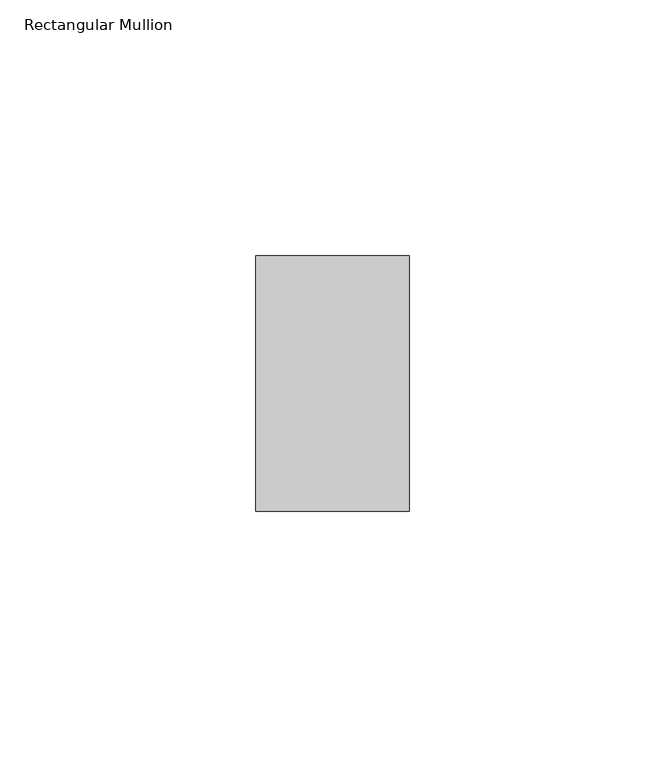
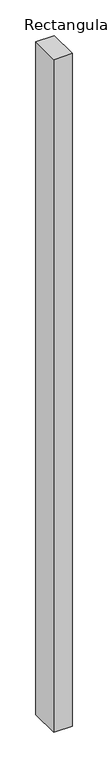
"""IFC4 building model written with IfcOpenShell, lengths in millimetres: member geometry, Rectangular Mullion : ARQ_TV_MULL_50x30mm."""

from ifc_helpers import new_model, si_unit, frame, origin, place, context, project, spatial, polyline, outline, extrude, source, transform, mapped, element, save


def rectangular_mullion_ff7ab27e(model_context):
    return source(origin(), model_context, "Body", "SweptSolid", [
        extrude(outline(polyline([(0.0, 25.0), (0.0, -25.0), (-30.0, -25.0), (-30.0, 25.0), (0.0, 25.0)])), frame((0.0, 0.0, -1151.2405904), z_axis=(0.0, 0.0, 1.0), x_axis=(1.0, 0.0, 0.0)), (0.0, 0.0, 1.0), 1151.2405904),
    ])


if __name__ == "__main__":
    model = new_model("IFC4")
    model_context = context("Model", 3, world=origin())
    ifc_project = project(units=[si_unit("LENGTHUNIT", "METRE", prefix="MILLI")], contexts=[model_context])
    site = spatial("IfcSite", under=ifc_project)
    building = spatial("IfcBuilding", under=site)
    placement = place(None, origin())
    rectangular_mullion_shape = rectangular_mullion_ff7ab27e(model_context)
    element("IfcMember", 1, ObjectType="Rectangular Mullion : ARQ_TV_MULL_50x30mm", at=placement, inside=building, context=model_context, shape_type="MappedRepresentation", body=[
        mapped(rectangular_mullion_shape, transform((0.0, 0.0, 0.0), x_axis=(1.0, 0.0, 0.0), y_axis=(0.0, 1.0, 0.0), z_axis=(0.0, 0.0, 1.0))),
    ])
    save(model, "model.ifc")
